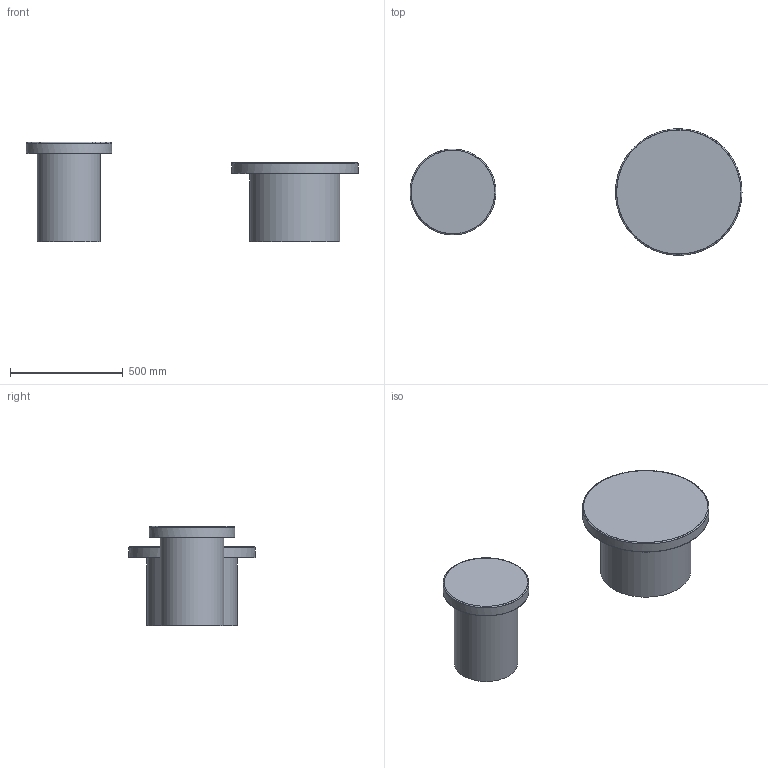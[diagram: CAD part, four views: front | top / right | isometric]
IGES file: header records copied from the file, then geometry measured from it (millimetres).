
Global section: file name: /Volumes/Team/Clients/Pulpo/2016 Alwa/20181119_ALWA THREE_JA.igs; preprocessor: Trout Lake IGES 012 Feb  7 2018; date: 181119.151331; units: millimetre
Bounding box: 1469.97 x 559.85 x 440 mm (x, y, z)
Surface area: 2300401 mm2 (no closed solid volume)
Topology: 0 solids, 0 shells, 18 faces, 191 edges, 182 vertices
Faces by surface type: bspline 18
